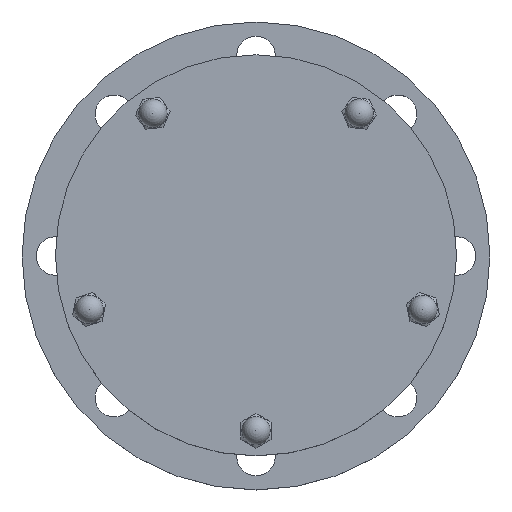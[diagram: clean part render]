
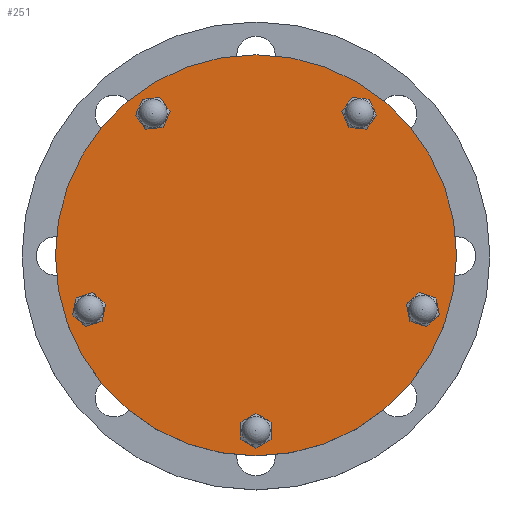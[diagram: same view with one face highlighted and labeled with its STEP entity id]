
A CAD part, top view. The second image highlights one B-rep face of the part: STEP entity #251.
In plain terms, the highlighted planar face has unit normal (0, 0, 1).
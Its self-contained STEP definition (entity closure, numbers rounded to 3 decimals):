
#251=ADVANCED_FACE('',(#967,#969,#971,#973),#975,.T.);
#967=FACE_BOUND('',#968,.T.);
#968=EDGE_LOOP('',(#1851));
#969=FACE_BOUND('',#970,.T.);
#970=EDGE_LOOP('',(#1852));
#971=FACE_BOUND('',#972,.T.);
#972=EDGE_LOOP('',(#1853));
#973=FACE_BOUND('',#974,.T.);
#974=EDGE_LOOP('',(#1854));
#975=PLANE('',#976);
#976=AXIS2_PLACEMENT_3D('',#977,#978,#979);
#977=CARTESIAN_POINT('',(0.,0.,248.));
#978=DIRECTION('',(0.,0.,1.));
#979=DIRECTION('',(-1.,0.,0.));
#1851=ORIENTED_EDGE('',*,*,#2281,.F.);
#1852=ORIENTED_EDGE('',*,*,#2282,.F.);
#1853=ORIENTED_EDGE('',*,*,#2283,.F.);
#1854=ORIENTED_EDGE('',*,*,#2284,.F.);
#2281=EDGE_CURVE('',#2466,#2466,#2467,.T.);
#2282=EDGE_CURVE('',#2468,#2468,#2469,.T.);
#2283=EDGE_CURVE('',#2470,#2470,#2471,.T.);
#2284=EDGE_CURVE('',#2472,#2472,#2473,.T.);
#2466=VERTEX_POINT('',#2771);
#2467=CIRCLE('',#2772,120.);
#2468=VERTEX_POINT('',#2776);
#2469=CIRCLE('',#2777,8.1);
#2470=VERTEX_POINT('',#2781);
#2471=CIRCLE('',#2782,8.1);
#2472=VERTEX_POINT('',#2786);
#2473=CIRCLE('',#2787,8.1);
#2771=CARTESIAN_POINT('',(-120.,0.,248.));
#2772=AXIS2_PLACEMENT_3D('',#2773,#2774,#2775);
#2773=CARTESIAN_POINT('',(0.,0.,248.));
#2774=DIRECTION('',(0.,0.,-1.));
#2775=DIRECTION('',(-1.,0.,0.));
#2776=CARTESIAN_POINT('',(-66.479,91.5,248.));
#2777=AXIS2_PLACEMENT_3D('',#2778,#2779,#2780);
#2778=CARTESIAN_POINT('',(-61.717,84.947,248.));
#2779=DIRECTION('',(0.,0.,1.));
#2780=DIRECTION('',(-0.588,0.809,0.));
#2781=CARTESIAN_POINT('',(0.,-113.1,248.));
#2782=AXIS2_PLACEMENT_3D('',#2783,#2784,#2785);
#2783=CARTESIAN_POINT('',(0.,-105.,248.));
#2784=DIRECTION('',(0.,0.,1.));
#2785=DIRECTION('',(0.,-1.,0.));
#2786=CARTESIAN_POINT('',(-107.564,-34.95,248.));
#2787=AXIS2_PLACEMENT_3D('',#2788,#2789,#2790);
#2788=CARTESIAN_POINT('',(-99.861,-32.447,248.));
#2789=DIRECTION('',(0.,0.,1.));
#2790=DIRECTION('',(-0.951,-0.309,0.));
